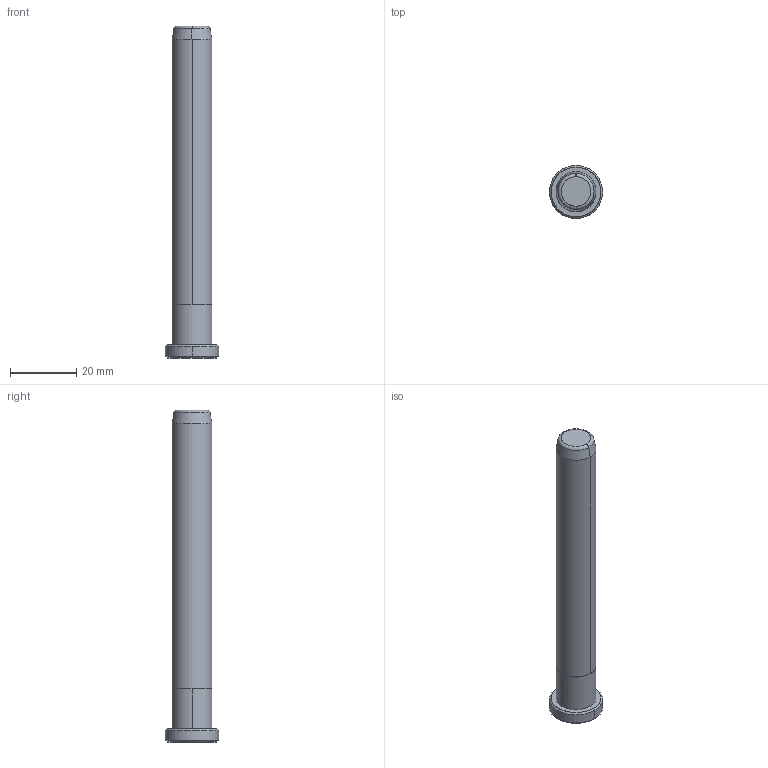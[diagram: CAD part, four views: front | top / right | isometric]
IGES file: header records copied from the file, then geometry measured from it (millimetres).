
Start section: START RECORD GO HERE.
Global section: file name: B85812100.igs; native system: DASSAULT SYSTEMES CATIA V5 R20 - www.3ds.com; preprocessor: CATIA Version 5 Release 20 ; author: Utente; organization: NB04-ASUS; date: 20200419.205128; units: millimetre
Bounding box: 16 x 16 x 100 mm (x, y, z)
Surface area: 4151.5 mm2 (no closed solid volume)
Topology: 0 solids, 0 shells, 20 faces, 80 edges, 80 vertices
Faces by surface type: revolution 16, plane 4
